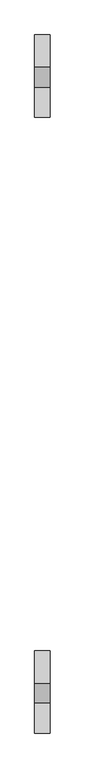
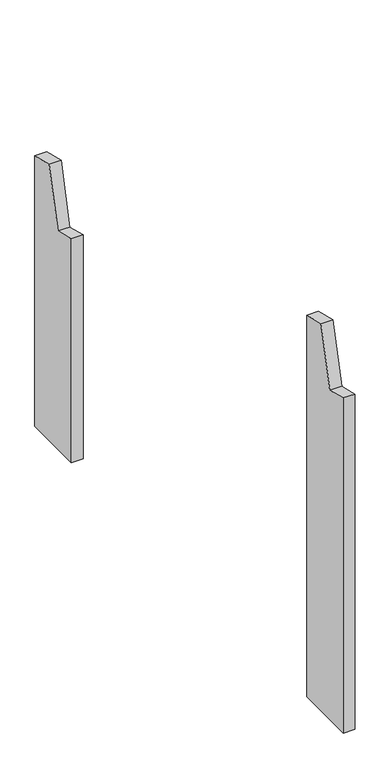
"""IFC4 building model written with IfcOpenShell, lengths in millimetres: proxy geometry, Modelos genéricos 107 : Modelos genéricos 5."""

from ifc_helpers import new_model, si_unit, frame, origin, place, context, project, spatial, polyline, outline, extrude, source, transform, mapped, element, save


def generic_models_1bcee4c5(model_context):
    return source(origin(), model_context, "Body", "SweptSolid", [
        extrude(outline(polyline([(3268.6238165, 3000.0), (3268.6238165, 3898.0915281), (3326.8415601, 3883.5762143), (3365.5490634, 4038.8235305), (3428.6238165, 4023.0972283), (3428.6238165, 3000.0), (3268.6238165, 3000.0)])), frame((5633.4472467, 0.0, 0.0), z_axis=(1.0, 0.0, 0.0), x_axis=(0.0, 1.0, 0.0)), (0.0, 0.0, 1.0), 30.0),
        extrude(outline(polyline([(4463.6238165, 3000.0), (4463.6238165, 3600.1445647), (4521.8415601, 3585.6292509), (4560.5490634, 3740.8765671), (4623.6238165, 3725.1502649), (4623.6238165, 3000.0), (4463.6238165, 3000.0)])), frame((5633.4472467, 0.0, 0.0), z_axis=(1.0, 0.0, 0.0), x_axis=(0.0, 1.0, 0.0)), (0.0, 0.0, 1.0), 30.0),
    ])


if __name__ == "__main__":
    model = new_model("IFC4")
    model_context = context("Model", 3, world=origin())
    ifc_project = project(units=[si_unit("LENGTHUNIT", "METRE", prefix="MILLI")], contexts=[model_context])
    site = spatial("IfcSite", under=ifc_project)
    building = spatial("IfcBuilding", under=site)
    placement = place(None, origin())
    generic_models_shape = generic_models_1bcee4c5(model_context)
    element("IfcBuildingElementProxy", 1, Name="Modelos genéricos 107 : Modelos genéricos 5", ObjectType="Modelos genéricos 107 : Modelos genéricos 5", at=placement, inside=building, context=model_context, shape_type="MappedRepresentation", body=[
        mapped(generic_models_shape, transform((0.0, 0.0, 0.0), x_axis=(1.0, 0.0, 0.0), y_axis=(0.0, 1.0, 0.0), z_axis=(0.0, 0.0, 1.0))),
    ])
    save(model, "model.ifc")
